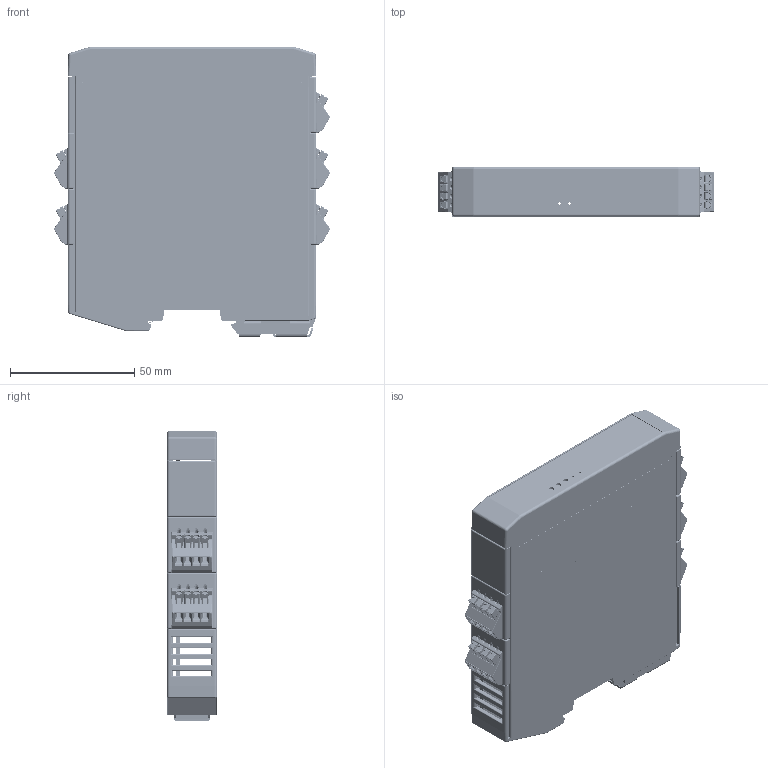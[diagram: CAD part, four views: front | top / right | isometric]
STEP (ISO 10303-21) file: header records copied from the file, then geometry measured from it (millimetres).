
FILE_DESCRIPTION (( 'STEP AP214' ), '1' );
FILE_NAME ('GSV_5H.STEP', '2024-07-08T10:14:47', ( '' ), ( '' ), 'SwSTEP 2.0', 'SolidWorks 2022', '' );
FILE_SCHEMA (( 'AUTOMOTIVE_DESIGN' ));
Length unit declared in the file: millimetre
Products named in the file (13): 2024_06_26_07_55_45_0423; 2024_06_26_07_55_45_0017; 2024_06_26_07_55_44_0830; 2024_06_26_07_55_44_0345; 2024_06_26_07_55_44_0626; LED_Render; 2024_06_26_07_55_45_0439; 2024_06_26_07_55_44_0392; 2024_06_26_07_55_45_0455; GSV_5H; LED_Render_grün; 2024_06_26_07_55_45_0220; 2024_06_26_07_55_45_0470
Assembly tree (13 placements, depth 2):
  GSV_5H
    2024_06_26_07_55_45_0470
    2024_06_26_07_55_45_0455
    2024_06_26_07_55_45_0439
    2024_06_26_07_55_45_0423
    2024_06_26_07_55_45_0220
    2024_06_26_07_55_45_0017
    2024_06_26_07_55_44_0830
    2024_06_26_07_55_44_0626
    2024_06_26_07_55_44_0392
    2024_06_26_07_55_44_0345
    LED_Render  x2
    LED_Render_grün
Bounding box: 111.27 x 20 x 116.65 mm (x, y, z)
Volume: 50599.4 mm3; surface area: 101683.4 mm2
Topology: 8 solids, 18 shells, 13769 faces, 38549 edges, 25038 vertices
Faces by surface type: plane 9615, cylinder 2335, bspline 1393, cone 169, torus 140, sphere 117
Entity records: 642219 total; most frequent: CARTESIAN_POINT 181285, ORIENTED_EDGE 76846, DIRECTION 61792, EDGE_CURVE 38443, LINE 29652, VECTOR 29652, VERTEX_POINT 25034, AXIS2_PLACEMENT_3D 16070
